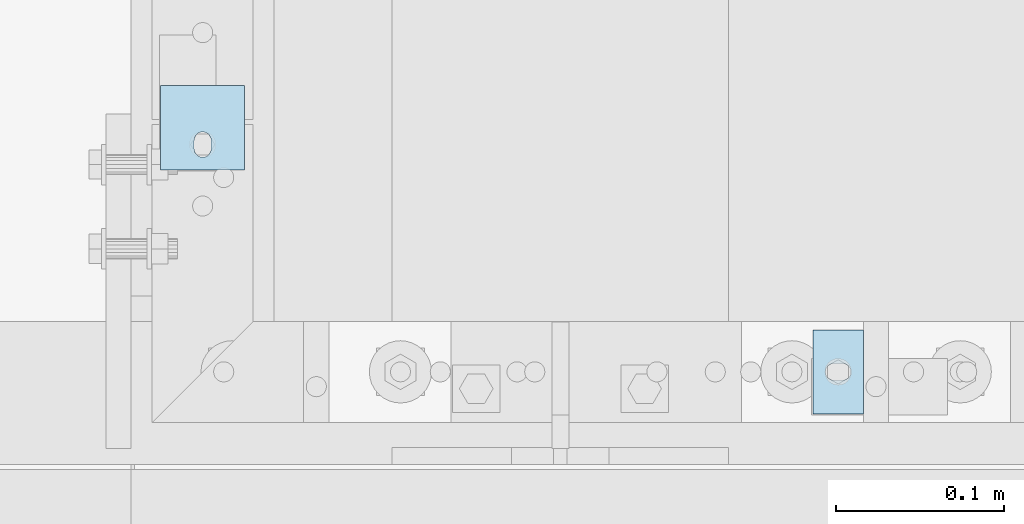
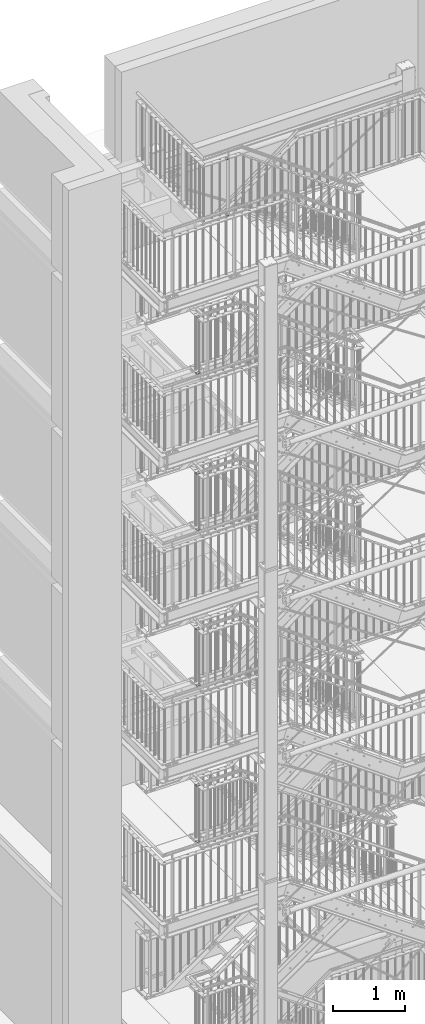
# One storey, part 226 of 831: 10 plates, 10 openings.
"""IFC2X3 building model written with IfcOpenShell, lengths in millimetres."""

from ifc_helpers import new_model, entity, si_unit, converted_unit, point, frame, frame_2d, origin, origin_with_axes, place, context, project, spatial, polyline, circle_curve, line_curve, trimmed, segment, composite_curve, outline, extrude, material, layer, layer_set, element, save


model = new_model("IFC2X3")

# Units and contexts
model_context = context("Model", 3, precision=1e-09, world=origin_with_axes())
ifc_project = project(units=[si_unit("LENGTHUNIT", "METRE", prefix="MILLI"), si_unit("AREAUNIT", "SQUARE_METRE"), si_unit("VOLUMEUNIT", "CUBIC_METRE"), converted_unit("PLANEANGLEUNIT", "DEGREE", entity("IfcPlaneAngleMeasure", 0.01745329), si_unit("PLANEANGLEUNIT", "RADIAN"), dimensions=[0, 0, 0, 0, 0, 0, 0])], contexts=[model_context])

# Site, building, storey
site_placement = place(None, origin_with_axes())
site = spatial("IfcSite", under=ifc_project, at=site_placement, Name="Site", CompositionType="ELEMENT")
building_placement = place(site_placement, origin_with_axes())
building = spatial("IfcBuilding", under=site, at=building_placement, Name="Struktur 1", CompositionType="ELEMENT")
storey_placement = place(building_placement, origin_with_axes())
storey = spatial("IfcBuildingStorey", under=building, at=storey_placement, Name="Default Storey", CompositionType="ELEMENT", Elevation=0.0)

# Plate, opening
ifc_material = material(Name="S235JR")
ifc_layer = layer(ifc_material, 6.0)
ifc_layer_set = layer_set([ifc_layer], Name="S235JR")
plate_1_placement = place(None, frame((5021.713902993, 5791.736971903, 17888.0), z_axis=(0.0, 0.0, -1.0), x_axis=(-1.0, 0.0, 0.0)))
plate_1 = element("IfcPlate", 1, at=plate_1_placement, inside=storey, material=ifc_layer_set, Name="-", ObjectType="-", context=model_context, shape_type="SweptSolid", body=[
    extrude(outline(polyline([(-15.0, -25.0), (15.0, -25.0), (15.0, 25.0), (-15.0, 25.0), (-15.0, -25.0)])), origin_with_axes(), (0.0, 0.0, -1.0), 6.0),
])
opening_1_placement = place(plate_1_placement, frame((-2.500000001, -5.001, 0.5), z_axis=(0.0, 0.0, 1.0), x_axis=(1.0, 0.0, 0.0)))
element("IfcOpeningElement", 2, at=opening_1_placement, cuts=plate_1, ObjectType="Opening", context=model_context, shape_type="SweptSolid", body=[
    extrude(outline(composite_curve([segment(trimmed(line_curve((0.0, 0.0), (1.0, 0.0), 5.0), [point((0.0, 0.0))], [point((5.0, 0.0))], True, "CARTESIAN"), True, "CONTINUOUS"), segment(trimmed(circle_curve(frame_2d((5.0, 5.001), x_axis=(1.0, 0.0)), 5.001), [point((5.0, 0.0))], [point((5.0, 10.002))], True, "CARTESIAN"), True, "CONTINUOUS"), segment(trimmed(line_curve((5.0, 10.002), (-1.0, 0.0), 5.0), [point((5.0, 10.002))], [point((0.0, 10.002))], True, "CARTESIAN"), True, "CONTINUOUS"), segment(trimmed(circle_curve(frame_2d((0.0, 5.001), x_axis=(1.0, 0.0)), 5.001), [point((0.0, 10.002))], [point((0.0, 0.0))], True, "CARTESIAN"), True, "CONTINUOUS")], self_intersect=False)), origin(), (0.0, 0.0, -1.0), 7.0),
])

plate_2_placement = place(None, frame((5021.713902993, 5791.736971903, 18836.8), z_axis=(0.0, 0.0, -1.0), x_axis=(-1.0, 0.0, 0.0)))
plate_2 = element("IfcPlate", 3, at=plate_2_placement, inside=storey, material=ifc_layer_set, Name="-", ObjectType="-", context=model_context, shape_type="SweptSolid", body=[
    extrude(outline(polyline([(-15.0, -25.0), (15.0, -25.0), (15.0, 25.0), (-15.0, 25.0), (-15.0, -25.0)])), origin_with_axes(), (0.0, 0.0, -1.0), 6.0),
])
opening_2_placement = place(plate_2_placement, frame((-2.500000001, -5.001, 0.5), z_axis=(0.0, 0.0, 1.0), x_axis=(1.0, 0.0, 0.0)))
element("IfcOpeningElement", 4, at=opening_2_placement, cuts=plate_2, ObjectType="Opening", context=model_context, shape_type="SweptSolid", body=[
    extrude(outline(composite_curve([segment(trimmed(line_curve((0.0, 0.0), (1.0, 0.0), 5.0), [point((0.0, 0.0))], [point((5.0, 0.0))], True, "CARTESIAN"), True, "CONTINUOUS"), segment(trimmed(circle_curve(frame_2d((5.0, 5.001), x_axis=(1.0, 0.0)), 5.001), [point((5.0, 0.0))], [point((5.0, 10.002))], True, "CARTESIAN"), True, "CONTINUOUS"), segment(trimmed(line_curve((5.0, 10.002), (-1.0, 0.0), 5.0), [point((5.0, 10.002))], [point((0.0, 10.002))], True, "CARTESIAN"), True, "CONTINUOUS"), segment(trimmed(circle_curve(frame_2d((0.0, 5.001), x_axis=(1.0, 0.0)), 5.001), [point((0.0, 10.002))], [point((0.0, 0.0))], True, "CARTESIAN"), True, "CONTINUOUS")], self_intersect=False)), origin(), (0.0, 0.0, -1.0), 7.0),
])

plate_3_placement = place(None, frame((4644.213402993, 5936.736971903, 16216.8), z_axis=(0.0, 0.0, -1.0), x_axis=(0.0, -1.0, 0.0)))
plate_3 = element("IfcPlate", 5, at=plate_3_placement, inside=storey, material=ifc_layer_set, Name="-", ObjectType="-", context=model_context, shape_type="SweptSolid", body=[
    extrude(outline(polyline([(-25.0, -25.0), (25.0, -25.0), (25.0, 25.0), (-25.0, 25.0), (-25.0, -25.0)])), origin_with_axes(), (0.0, 0.0, -1.0), 6.0),
])
opening_3_placement = place(plate_3_placement, frame((7.499999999, -5.001, 0.5), z_axis=(0.0, 0.0, 1.0), x_axis=(1.0, 0.0, 0.0)))
element("IfcOpeningElement", 6, at=opening_3_placement, cuts=plate_3, ObjectType="Opening", context=model_context, shape_type="SweptSolid", body=[
    extrude(outline(composite_curve([segment(trimmed(line_curve((0.0, 0.0), (1.0, 0.0), 5.0), [point((0.0, 0.0))], [point((5.0, 0.0))], True, "CARTESIAN"), True, "CONTINUOUS"), segment(trimmed(circle_curve(frame_2d((5.0, 5.001), x_axis=(1.0, 0.0)), 5.001), [point((5.0, 0.0))], [point((5.0, 10.002))], True, "CARTESIAN"), True, "CONTINUOUS"), segment(trimmed(line_curve((5.0, 10.002), (-1.0, 0.0), 5.0), [point((5.0, 10.002))], [point((0.0, 10.002))], True, "CARTESIAN"), True, "CONTINUOUS"), segment(trimmed(circle_curve(frame_2d((0.0, 5.001), x_axis=(1.0, 0.0)), 5.001), [point((0.0, 10.002))], [point((0.0, 0.0))], True, "CARTESIAN"), True, "CONTINUOUS")], self_intersect=False)), origin(), (0.0, 0.0, -1.0), 7.0),
])

plate_4_placement = place(None, frame((4644.213402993, 5936.736971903, 15268.0), z_axis=(0.0, 0.0, -1.0), x_axis=(0.0, -1.0, 0.0)))
plate_4 = element("IfcPlate", 7, at=plate_4_placement, inside=storey, material=ifc_layer_set, Name="-", ObjectType="-", context=model_context, shape_type="SweptSolid", body=[
    extrude(outline(polyline([(-25.0, -25.0), (25.0, -25.0), (25.0, 25.0), (-25.0, 25.0), (-25.0, -25.0)])), origin_with_axes(), (0.0, 0.0, -1.0), 6.0),
])
opening_4_placement = place(plate_4_placement, frame((7.499999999, -5.001, 0.5), z_axis=(0.0, 0.0, 1.0), x_axis=(1.0, 0.0, 0.0)))
element("IfcOpeningElement", 8, at=opening_4_placement, cuts=plate_4, ObjectType="Opening", context=model_context, shape_type="SweptSolid", body=[
    extrude(outline(composite_curve([segment(trimmed(line_curve((0.0, 0.0), (1.0, 0.0), 5.0), [point((0.0, 0.0))], [point((5.0, 0.0))], True, "CARTESIAN"), True, "CONTINUOUS"), segment(trimmed(circle_curve(frame_2d((5.0, 5.001), x_axis=(1.0, 0.0)), 5.001), [point((5.0, 0.0))], [point((5.0, 10.002))], True, "CARTESIAN"), True, "CONTINUOUS"), segment(trimmed(line_curve((5.0, 10.002), (-1.0, 0.0), 5.0), [point((5.0, 10.002))], [point((0.0, 10.002))], True, "CARTESIAN"), True, "CONTINUOUS"), segment(trimmed(circle_curve(frame_2d((0.0, 5.001), x_axis=(1.0, 0.0)), 5.001), [point((0.0, 10.002))], [point((0.0, 0.0))], True, "CARTESIAN"), True, "CONTINUOUS")], self_intersect=False)), origin(), (0.0, 0.0, -1.0), 7.0),
])

plate_5_placement = place(None, frame((4644.213402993, 5936.736971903, 13581.8), z_axis=(0.0, 0.0, -1.0), x_axis=(0.0, -1.0, 0.0)))
plate_5 = element("IfcPlate", 9, at=plate_5_placement, inside=storey, material=ifc_layer_set, Name="-", ObjectType="-", context=model_context, shape_type="SweptSolid", body=[
    extrude(outline(polyline([(-25.0, -25.0), (25.0, -25.0), (25.0, 25.0), (-25.0, 25.0), (-25.0, -25.0)])), origin_with_axes(), (0.0, 0.0, -1.0), 6.0),
])
opening_5_placement = place(plate_5_placement, frame((7.499999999, -5.001, 0.5), z_axis=(0.0, 0.0, 1.0), x_axis=(1.0, 0.0, 0.0)))
element("IfcOpeningElement", 10, at=opening_5_placement, cuts=plate_5, ObjectType="Opening", context=model_context, shape_type="SweptSolid", body=[
    extrude(outline(composite_curve([segment(trimmed(line_curve((0.0, 0.0), (1.0, 0.0), 5.0), [point((0.0, 0.0))], [point((5.0, 0.0))], True, "CARTESIAN"), True, "CONTINUOUS"), segment(trimmed(circle_curve(frame_2d((5.0, 5.001), x_axis=(1.0, 0.0)), 5.001), [point((5.0, 0.0))], [point((5.0, 10.002))], True, "CARTESIAN"), True, "CONTINUOUS"), segment(trimmed(line_curve((5.0, 10.002), (-1.0, 0.0), 5.0), [point((5.0, 10.002))], [point((0.0, 10.002))], True, "CARTESIAN"), True, "CONTINUOUS"), segment(trimmed(circle_curve(frame_2d((0.0, 5.001), x_axis=(1.0, 0.0)), 5.001), [point((0.0, 10.002))], [point((0.0, 0.0))], True, "CARTESIAN"), True, "CONTINUOUS")], self_intersect=False)), origin(), (0.0, 0.0, -1.0), 7.0),
])

plate_6_placement = place(None, frame((4644.213402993, 5936.736971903, 12633.0), z_axis=(0.0, 0.0, -1.0), x_axis=(0.0, -1.0, 0.0)))
plate_6 = element("IfcPlate", 11, at=plate_6_placement, inside=storey, material=ifc_layer_set, Name="-", ObjectType="-", context=model_context, shape_type="SweptSolid", body=[
    extrude(outline(polyline([(-25.0, -25.0), (25.0, -25.0), (25.0, 25.0), (-25.0, 25.0), (-25.0, -25.0)])), origin_with_axes(), (0.0, 0.0, -1.0), 6.0),
])
opening_6_placement = place(plate_6_placement, frame((7.499999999, -5.001, 0.5), z_axis=(0.0, 0.0, 1.0), x_axis=(1.0, 0.0, 0.0)))
element("IfcOpeningElement", 12, at=opening_6_placement, cuts=plate_6, ObjectType="Opening", context=model_context, shape_type="SweptSolid", body=[
    extrude(outline(composite_curve([segment(trimmed(line_curve((0.0, 0.0), (1.0, 0.0), 5.0), [point((0.0, 0.0))], [point((5.0, 0.0))], True, "CARTESIAN"), True, "CONTINUOUS"), segment(trimmed(circle_curve(frame_2d((5.0, 5.001), x_axis=(1.0, 0.0)), 5.001), [point((5.0, 0.0))], [point((5.0, 10.002))], True, "CARTESIAN"), True, "CONTINUOUS"), segment(trimmed(line_curve((5.0, 10.002), (-1.0, 0.0), 5.0), [point((5.0, 10.002))], [point((0.0, 10.002))], True, "CARTESIAN"), True, "CONTINUOUS"), segment(trimmed(circle_curve(frame_2d((0.0, 5.001), x_axis=(1.0, 0.0)), 5.001), [point((0.0, 10.002))], [point((0.0, 0.0))], True, "CARTESIAN"), True, "CONTINUOUS")], self_intersect=False)), origin(), (0.0, 0.0, -1.0), 7.0),
])

plate_7_placement = place(None, frame((4644.213402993, 5936.736971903, 10954.8), z_axis=(0.0, 0.0, -1.0), x_axis=(0.0, -1.0, 0.0)))
plate_7 = element("IfcPlate", 13, at=plate_7_placement, inside=storey, material=ifc_layer_set, Name="-", ObjectType="-", context=model_context, shape_type="SweptSolid", body=[
    extrude(outline(polyline([(-25.0, -25.0), (25.0, -25.0), (25.0, 25.0), (-25.0, 25.0), (-25.0, -25.0)])), origin_with_axes(), (0.0, 0.0, -1.0), 6.0),
])
opening_7_placement = place(plate_7_placement, frame((7.499999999, -5.001, 0.5), z_axis=(0.0, 0.0, 1.0), x_axis=(1.0, 0.0, 0.0)))
element("IfcOpeningElement", 14, at=opening_7_placement, cuts=plate_7, ObjectType="Opening", context=model_context, shape_type="SweptSolid", body=[
    extrude(outline(composite_curve([segment(trimmed(line_curve((0.0, 0.0), (1.0, 0.0), 5.0), [point((0.0, 0.0))], [point((5.0, 0.0))], True, "CARTESIAN"), True, "CONTINUOUS"), segment(trimmed(circle_curve(frame_2d((5.0, 5.001), x_axis=(1.0, 0.0)), 5.001), [point((5.0, 0.0))], [point((5.0, 10.002))], True, "CARTESIAN"), True, "CONTINUOUS"), segment(trimmed(line_curve((5.0, 10.002), (-1.0, 0.0), 5.0), [point((5.0, 10.002))], [point((0.0, 10.002))], True, "CARTESIAN"), True, "CONTINUOUS"), segment(trimmed(circle_curve(frame_2d((0.0, 5.001), x_axis=(1.0, 0.0)), 5.001), [point((0.0, 10.002))], [point((0.0, 0.0))], True, "CARTESIAN"), True, "CONTINUOUS")], self_intersect=False)), origin(), (0.0, 0.0, -1.0), 7.0),
])

plate_8_placement = place(None, frame((4644.213402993, 5936.736971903, 10006.0), z_axis=(0.0, 0.0, -1.0), x_axis=(0.0, -1.0, 0.0)))
plate_8 = element("IfcPlate", 15, at=plate_8_placement, inside=storey, material=ifc_layer_set, Name="-", ObjectType="-", context=model_context, shape_type="SweptSolid", body=[
    extrude(outline(polyline([(-25.0, -25.0), (25.0, -25.0), (25.0, 25.0), (-25.0, 25.0), (-25.0, -25.0)])), origin_with_axes(), (0.0, 0.0, -1.0), 6.0),
])
opening_8_placement = place(plate_8_placement, frame((7.499999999, -5.001, 0.5), z_axis=(0.0, 0.0, 1.0), x_axis=(1.0, 0.0, 0.0)))
element("IfcOpeningElement", 16, at=opening_8_placement, cuts=plate_8, ObjectType="Opening", context=model_context, shape_type="SweptSolid", body=[
    extrude(outline(composite_curve([segment(trimmed(line_curve((0.0, 0.0), (1.0, 0.0), 5.0), [point((0.0, 0.0))], [point((5.0, 0.0))], True, "CARTESIAN"), True, "CONTINUOUS"), segment(trimmed(circle_curve(frame_2d((5.0, 5.001), x_axis=(1.0, 0.0)), 5.001), [point((5.0, 0.0))], [point((5.0, 10.002))], True, "CARTESIAN"), True, "CONTINUOUS"), segment(trimmed(line_curve((5.0, 10.002), (-1.0, 0.0), 5.0), [point((5.0, 10.002))], [point((0.0, 10.002))], True, "CARTESIAN"), True, "CONTINUOUS"), segment(trimmed(circle_curve(frame_2d((0.0, 5.001), x_axis=(1.0, 0.0)), 5.001), [point((0.0, 10.002))], [point((0.0, 0.0))], True, "CARTESIAN"), True, "CONTINUOUS")], self_intersect=False)), origin(), (0.0, 0.0, -1.0), 7.0),
])

plate_9_placement = place(None, frame((4644.213402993, 5936.736971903, 8322.8), z_axis=(0.0, 0.0, -1.0), x_axis=(0.0, -1.0, 0.0)))
plate_9 = element("IfcPlate", 17, at=plate_9_placement, inside=storey, material=ifc_layer_set, Name="-", ObjectType="-", context=model_context, shape_type="SweptSolid", body=[
    extrude(outline(polyline([(-25.0, -25.0), (25.0, -25.0), (25.0, 25.0), (-25.0, 25.0), (-25.0, -25.0)])), origin_with_axes(), (0.0, 0.0, -1.0), 6.0),
])
opening_9_placement = place(plate_9_placement, frame((7.499999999, -5.001, 0.5), z_axis=(0.0, 0.0, 1.0), x_axis=(1.0, 0.0, 0.0)))
element("IfcOpeningElement", 18, at=opening_9_placement, cuts=plate_9, ObjectType="Opening", context=model_context, shape_type="SweptSolid", body=[
    extrude(outline(composite_curve([segment(trimmed(line_curve((0.0, 0.0), (1.0, 0.0), 5.0), [point((0.0, 0.0))], [point((5.0, 0.0))], True, "CARTESIAN"), True, "CONTINUOUS"), segment(trimmed(circle_curve(frame_2d((5.0, 5.001), x_axis=(1.0, 0.0)), 5.001), [point((5.0, 0.0))], [point((5.0, 10.002))], True, "CARTESIAN"), True, "CONTINUOUS"), segment(trimmed(line_curve((5.0, 10.002), (-1.0, 0.0), 5.0), [point((5.0, 10.002))], [point((0.0, 10.002))], True, "CARTESIAN"), True, "CONTINUOUS"), segment(trimmed(circle_curve(frame_2d((0.0, 5.001), x_axis=(1.0, 0.0)), 5.001), [point((0.0, 10.002))], [point((0.0, 0.0))], True, "CARTESIAN"), True, "CONTINUOUS")], self_intersect=False)), origin(), (0.0, 0.0, -1.0), 7.0),
])

plate_10_placement = place(None, frame((4644.213402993, 5936.736971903, 7374.0), z_axis=(0.0, 0.0, -1.0), x_axis=(0.0, -1.0, 0.0)))
plate_10 = element("IfcPlate", 19, at=plate_10_placement, inside=storey, material=ifc_layer_set, Name="-", ObjectType="-", context=model_context, shape_type="SweptSolid", body=[
    extrude(outline(polyline([(-25.0, -25.0), (25.0, -25.0), (25.0, 25.0), (-25.0, 25.0), (-25.0, -25.0)])), origin_with_axes(), (0.0, 0.0, -1.0), 6.0),
])
opening_10_placement = place(plate_10_placement, frame((7.499999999, -5.001, 0.5), z_axis=(0.0, 0.0, 1.0), x_axis=(1.0, 0.0, 0.0)))
element("IfcOpeningElement", 20, at=opening_10_placement, cuts=plate_10, ObjectType="Opening", context=model_context, shape_type="SweptSolid", body=[
    extrude(outline(composite_curve([segment(trimmed(line_curve((0.0, 0.0), (1.0, 0.0), 5.0), [point((0.0, 0.0))], [point((5.0, 0.0))], True, "CARTESIAN"), True, "CONTINUOUS"), segment(trimmed(circle_curve(frame_2d((5.0, 5.001), x_axis=(1.0, 0.0)), 5.001), [point((5.0, 0.0))], [point((5.0, 10.002))], True, "CARTESIAN"), True, "CONTINUOUS"), segment(trimmed(line_curve((5.0, 10.002), (-1.0, 0.0), 5.0), [point((5.0, 10.002))], [point((0.0, 10.002))], True, "CARTESIAN"), True, "CONTINUOUS"), segment(trimmed(circle_curve(frame_2d((0.0, 5.001), x_axis=(1.0, 0.0)), 5.001), [point((0.0, 10.002))], [point((0.0, 0.0))], True, "CARTESIAN"), True, "CONTINUOUS")], self_intersect=False)), origin(), (0.0, 0.0, -1.0), 7.0),
])

save(model, "model.ifc")
